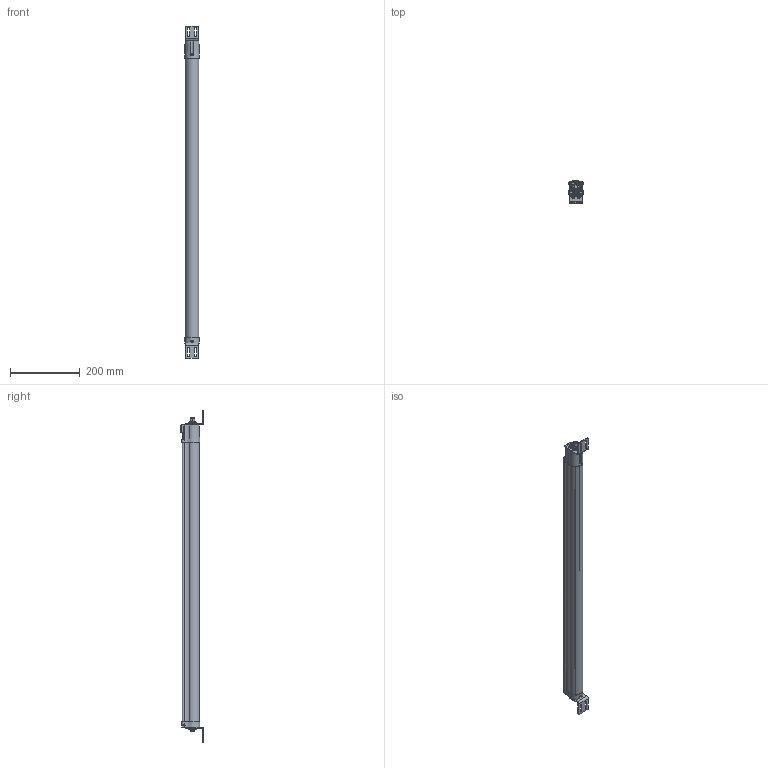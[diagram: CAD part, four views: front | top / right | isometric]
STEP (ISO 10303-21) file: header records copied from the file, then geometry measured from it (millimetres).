
FILE_DESCRIPTION((''),'2;1');
FILE_NAME('440L-F4J0800YD_SW0002','2024-07-29T15:38:49',('AKhan24'),('Rockwell Automation'),'CREO PARAMETRIC BY PTC INC, 2022424','CREO PARAMETRIC BY PTC INC, 2022424','');
FILE_SCHEMA(('AUTOMOTIVE_DESIGN { 1 0 10303 214 1 1 1 1 }'));
Products named in the file (1): 440L-F4J0800YD_SW0002
Bounding box: 42.01 x 66.8 x 952 mm (x, y, z)
Volume: 452314.3 mm3; surface area: 340471.8 mm2
Topology: 1 solids, 1 shells, 1999 faces, 5144 edges, 3238 vertices
Faces by surface type: plane 782, cylinder 641, cone 225, torus 224, bspline 79, sphere 48
Entity records: 109269 total; most frequent: CARTESIAN_POINT 30492, DIRECTION 10603, ORIENTED_EDGE 10284, PRESENTATION_STYLE_ASSIGNMENT 7142, STYLED_ITEM 5143, CURVE_STYLE 5142, EDGE_CURVE 5142, AXIS2_PLACEMENT_3D 4163
